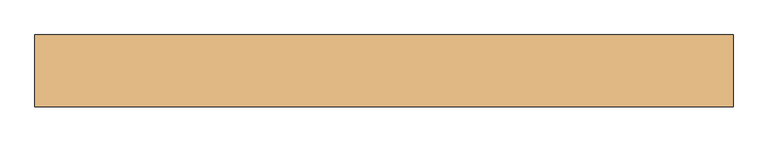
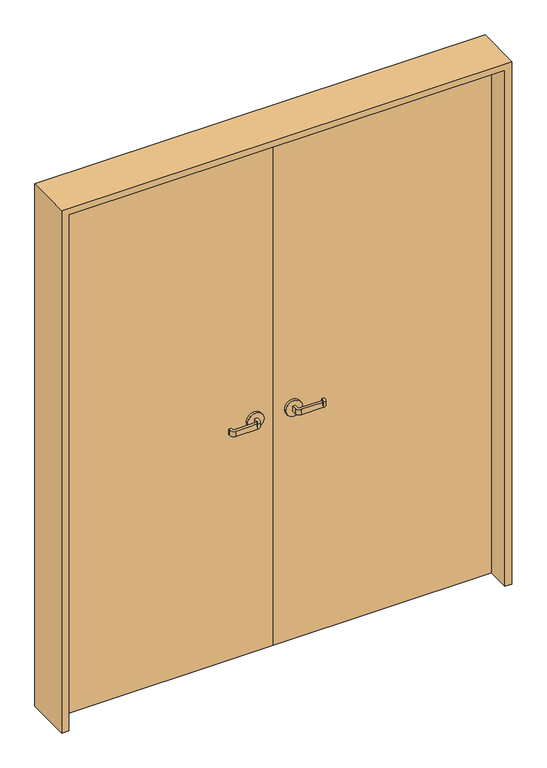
"""IFC4 building model written with IfcOpenShell, lengths in millimetres: door geometry, 両開き戸 : 両開き：w1600h2000."""

import ifcopenshell
import ifcopenshell.guid

model = None  # the IFC model being written
_history = None  # IfcOwnerHistory: only IFC2X3 demands one
_inside = {}  # id of a spatial element -> (the spatial element, [elements in it])
_under = {}  # id of a project, library or spatial element -> (it, [spatial elements below it])
_declared = {}  # id of a project -> (the project, [libraries it declares])
_typed = {}  # id of a type object -> (the type object, [elements of that type])
_made_of = {}  # id of a material, layer set ... -> (it, [elements and type objects made of it])


def new_model(schema):
    """Start an empty IFC model of exactly this schema.

    Asked for "IFC4X3", IfcOpenShell would pick the latest addendum, in which some entities
    have other attributes; the version numbers below select the first issue.
    IFC2X3 requires an IfcOwnerHistory on every rooted entity: one is made here for all.
    """
    global model, _history
    if schema == "IFC4X3":
        model = ifcopenshell.file(schema_version=(4, 3, 0, 0))
    else:
        model = ifcopenshell.file(schema=schema)
    _inside.clear()
    _under.clear()
    _declared.clear()
    _typed.clear()
    _made_of.clear()
    _history = None
    if model.schema == "IFC2X3":
        org = make("IfcOrganization", Name="unknown")
        user = make(
            "IfcPersonAndOrganization",
            ThePerson=make("IfcPerson", FamilyName="unknown"),
            TheOrganization=org,
        )
        app = make(
            "IfcApplication",
            ApplicationDeveloper=org,
            Version="unknown",
            ApplicationFullName="unknown",
            ApplicationIdentifier="unknown",
        )
        _history = make(
            "IfcOwnerHistory",
            OwningUser=user,
            OwningApplication=app,
            ChangeAction="ADDED",
            CreationDate=0,
        )
    return model


def make(cls, **values):
    """One entity of the class cls with the attributes given. An attribute that is None is left unset."""
    return model.create_entity(
        cls, **{name: value for name, value in values.items() if value is not None}
    )


def rooted(cls, **values):
    """An entity with a GlobalId (a new one), such as an element, a storey or a relation."""
    return make(cls, GlobalId=ifcopenshell.guid.new(), OwnerHistory=_history, **values)


def si_unit(unit_type, name, prefix=None):
    """IfcSIUnit, for example si_unit("LENGTHUNIT", "METRE", prefix="MILLI")."""
    return make("IfcSIUnit", UnitType=unit_type, Prefix=prefix, Name=name)


def assignment(units):
    """IfcUnitAssignment: the units of a project."""
    return None if units is None else make("IfcUnitAssignment", Units=units)


def point(xyz):
    """IfcCartesianPoint."""
    return None if xyz is None else make("IfcCartesianPoint", Coordinates=xyz)


def direction(xyz):
    """IfcDirection."""
    return None if xyz is None else make("IfcDirection", DirectionRatios=xyz)


def frame(location, z_axis=None, x_axis=None):
    """IfcAxis2Placement3D, a coordinate frame: its origin and axes. An axis left out is left unset."""
    return make(
        "IfcAxis2Placement3D",
        Location=point(location),
        Axis=direction(z_axis),
        RefDirection=direction(x_axis),
    )


def frame_2d(location, x_axis=None):
    """IfcAxis2Placement2D, a coordinate frame in the plane: its origin and x axis."""
    return make(
        "IfcAxis2Placement2D", Location=point(location), RefDirection=direction(x_axis)
    )


def origin():
    """The frame at (0, 0, 0) with its axes left unset."""
    return frame((0.0, 0.0, 0.0))


def origin_with_axes():
    """The frame at (0, 0, 0) with the z axis (0, 0, 1) and the x axis (1, 0, 0) written out."""
    return frame((0.0, 0.0, 0.0), z_axis=(0.0, 0.0, 1.0), x_axis=(1.0, 0.0, 0.0))


def place(relative_to, where):
    """IfcLocalPlacement: puts the frame where relative to a parent placement (None: the world)."""
    return make(
        "IfcLocalPlacement", PlacementRelTo=relative_to, RelativePlacement=where
    )


def context(
    kind, dimensions, precision=None, world=None, true_north=None, identifier=None
):
    """IfcGeometricRepresentationContext, for example the 3D "Model" context."""
    return make(
        "IfcGeometricRepresentationContext",
        ContextIdentifier=identifier,
        ContextType=kind,
        CoordinateSpaceDimension=dimensions,
        Precision=precision,
        WorldCoordinateSystem=world,
        TrueNorth=true_north,
    )


def project(units=None, contexts=None):
    """IfcProject with its units and contexts."""
    return rooted(
        "IfcProject",
        Name="project",
        RepresentationContexts=contexts,
        UnitsInContext=assignment(units),
    )


def spatial(cls, under=None, at=None, **own):
    """A site, building, storey or space (cls), placed at a placement, below another one or the project."""
    s = rooted(cls, ObjectPlacement=at, **own)
    if under is not None:
        _under.setdefault(under.id(), (under, []))[1].append(s)
    return s


def polyline(points):
    """IfcPolyline through the points."""
    return make("IfcPolyline", Points=[point(p) for p in points])


def circle_curve(where, radius):
    """IfcCircle in the frame where."""
    return make("IfcCircle", Position=where, Radius=radius)


def trimmed(basis, trim1, trim2, sense, master):
    """IfcTrimmedCurve: the piece of a basis curve between two trims."""
    return make(
        "IfcTrimmedCurve",
        BasisCurve=basis,
        Trim1=trim1,
        Trim2=trim2,
        SenseAgreement=sense,
        MasterRepresentation=master,
    )


def segment(curve, same_sense, transition):
    """IfcCompositeCurveSegment."""
    return make(
        "IfcCompositeCurveSegment",
        Transition=transition,
        SameSense=same_sense,
        ParentCurve=curve,
    )


def composite_curve(segments, self_intersect=None):
    """IfcCompositeCurve: segments joined end to end."""
    return make("IfcCompositeCurve", Segments=segments, SelfIntersect=self_intersect)


def outline(outer, holes=None, kind="AREA"):
    """IfcArbitraryClosedProfileDef: a profile drawn as a closed curve; with holes, ...WithVoids."""
    if holes is None:
        return make("IfcArbitraryClosedProfileDef", ProfileType=kind, OuterCurve=outer)
    return make(
        "IfcArbitraryProfileDefWithVoids",
        ProfileType=kind,
        OuterCurve=outer,
        InnerCurves=holes,
    )


def extrude(swept, where, along, depth):
    """IfcExtrudedAreaSolid: the profile swept, set in the frame where, extruded along a direction by depth."""
    return make(
        "IfcExtrudedAreaSolid",
        SweptArea=swept,
        Position=where,
        ExtrudedDirection=direction(along),
        Depth=depth,
    )


def shape(context_of_items, identifier, shape_type, items):
    """IfcShapeRepresentation: the items that make up one representation, for example the "Body"."""
    return make(
        "IfcShapeRepresentation",
        ContextOfItems=context_of_items,
        RepresentationIdentifier=identifier,
        RepresentationType=shape_type,
        Items=items,
    )


def source(mapping_origin, context_of_items, identifier, shape_type, items):
    """IfcRepresentationMap: a shape defined once, which mapped items show again and again."""
    return make(
        "IfcRepresentationMap",
        MappingOrigin=mapping_origin,
        MappedRepresentation=shape(context_of_items, identifier, shape_type, items),
    )


def transform(
    local_origin,
    x_axis=None,
    y_axis=None,
    z_axis=None,
    scale=None,
    scale2=None,
    scale3=None,
    uniform=True,
):
    """IfcCartesianTransformationOperator3D, or its non-uniform kind. x_axis, y_axis, z_axis: its Axis1, 2, 3."""
    if uniform:
        return make(
            "IfcCartesianTransformationOperator3D",
            Axis1=direction(x_axis),
            Axis2=direction(y_axis),
            LocalOrigin=point(local_origin),
            Scale=scale,
            Axis3=direction(z_axis),
        )
    return make(
        "IfcCartesianTransformationOperator3DnonUniform",
        Axis1=direction(x_axis),
        Axis2=direction(y_axis),
        LocalOrigin=point(local_origin),
        Scale=scale,
        Axis3=direction(z_axis),
        Scale2=scale2,
        Scale3=scale3,
    )


def mapped(mapping_source, mapping_target):
    """IfcMappedItem: shows the shape of a source again, moved by a transform."""
    return make(
        "IfcMappedItem", MappingSource=mapping_source, MappingTarget=mapping_target
    )


def made_of(thing, what):
    """Note that an element or type object is made of a material, layer set ...; save() writes the relation."""
    if what is not None:
        _made_of.setdefault(what.id(), (what, []))[1].append(thing)
    return thing


def element(
    cls,
    number,
    at=None,
    inside=None,
    cuts=None,
    type_object=None,
    material=None,
    context=None,
    identifier="Body",
    shape_type=None,
    held_by="IfcProductDefinitionShape",
    body=None,
    shapes=None,
    **own,
):
    """One element of the class cls, such as IfcWall. Its Tag is "e" and its number.

    at: its placement. inside: the storey or other place that contains it. cuts: it is an
    opening in that element (IfcRelVoidsElement). A single representation is given by context,
    identifier, shape_type and body (its items); several are given by shapes. held_by: the class
    of the entity that holds the representations. save() writes the other relations.
    """
    e = rooted(cls, Tag="e%d" % number, ObjectPlacement=at, **own)
    if body is not None:
        shapes = [shape(context, identifier, shape_type, body)]
    if shapes is not None:
        e.Representation = make(held_by, Representations=shapes)
    if inside is not None:
        _inside.setdefault(inside.id(), (inside, []))[1].append(e)
    if cuts is not None:
        rooted(
            "IfcRelVoidsElement", RelatingBuildingElement=cuts, RelatedOpeningElement=e
        )
    if type_object is not None:
        _typed.setdefault(type_object.id(), (type_object, []))[1].append(e)
    return made_of(e, material)


def aggregate(whole, parts):
    """IfcRelAggregates: a whole, such as a stair, and the parts it consists of."""
    return rooted("IfcRelAggregates", RelatingObject=whole, RelatedObjects=parts)


def save(model, path):
    """Write the relations noted so far, then the file.

    IfcRelAggregates (storeys below a building ...), IfcRelContainedInSpatialStructure (elements
    in a storey), IfcRelDefinesByType, IfcRelAssociatesMaterial and IfcRelDeclares: one each for
    every whole, place, type object, material and project.
    """
    for whole, parts in _under.values():
        aggregate(whole, parts)
    for where, things in _inside.values():
        rooted(
            "IfcRelContainedInSpatialStructure",
            RelatedElements=things,
            RelatingStructure=where,
        )
    for kind, things in _typed.values():
        rooted("IfcRelDefinesByType", RelatedObjects=things, RelatingType=kind)
    for what, things in _made_of.values():
        rooted("IfcRelAssociatesMaterial", RelatedObjects=things, RelatingMaterial=what)
    for by, libraries in _declared.values():
        rooted("IfcRelDeclares", RelatingContext=by, RelatedDefinitions=libraries)
    model.write(path)


def door_298ce04c(model_context):
    return source(origin(), model_context, "Body", "SweptSolid", [
        extrude(outline(polyline([(791.5283918, 40.0), (791.5283918, 0.0), (-8.4716082, 0.0), (-8.4716082, 40.0), (791.5283918, 40.0)])), origin_with_axes(), (0.0, 0.0, 1.0), 2000.0),
        extrude(outline(polyline([(-8.4716082, 40.0), (-8.4716082, 0.0), (-808.4716082, 0.0), (-808.4716082, 40.0), (-8.4716082, 40.0)])), origin_with_axes(), (0.0, 0.0, 1.0), 2000.0),
        extrude(outline(composite_curve([segment(polyline([(-83.4716082, 50.0), (-83.4716082, 65.0)]), True, "CONTINUOUS"), segment(trimmed(circle_curve(frame_2d((-88.4716082, 65.0)), 5.0), [point((-83.4716082, 65.0))], [point((-88.4716082, 70.0))], True, "CARTESIAN"), True, "CONTINUOUS"), segment(polyline([(-88.4716082, 70.0), (-168.4716082, 70.0)]), True, "CONTINUOUS"), segment(trimmed(circle_curve(frame_2d((-168.4716082, 65.0)), 5.0), [point((-168.4716082, 70.0))], [point((-173.4716082, 65.0))], True, "CARTESIAN"), True, "CONTINUOUS"), segment(polyline([(-173.4716082, 65.0), (-173.4716082, 60.0), (-183.4716082, 60.0), (-183.4716082, 65.0)]), True, "CONTINUOUS"), segment(trimmed(circle_curve(frame_2d((-168.4716082, 65.0)), 15.0), [point((-183.4716082, 65.0))], [point((-168.4716082, 80.0))], False, "CARTESIAN"), True, "CONTINUOUS"), segment(polyline([(-168.4716082, 80.0), (-88.4716082, 80.0)]), True, "CONTINUOUS"), segment(trimmed(circle_curve(frame_2d((-88.4716082, 65.0)), 15.0), [point((-88.4716082, 80.0))], [point((-73.4716082, 65.0))], False, "CARTESIAN"), True, "CONTINUOUS"), segment(polyline([(-73.4716082, 65.0), (-73.4716082, 50.0), (-83.4716082, 50.0)]), True, "CONTINUOUS")], self_intersect=False)), frame((0.0, 0.0, 890.0), z_axis=(0.0, 0.0, 1.0), x_axis=(1.0, 0.0, 0.0)), (0.0, 0.0, 1.0), 20.0),
        extrude(outline(composite_curve([segment(trimmed(circle_curve(frame_2d((900.0, -78.4716082)), 30.0), [point((900.0, -48.4716082))], [point((900.0, -108.4716082))], False, "CARTESIAN"), True, "CONTINUOUS"), segment(trimmed(circle_curve(frame_2d((900.0, -78.4716082)), 30.0), [point((900.0, -108.4716082))], [point((900.0, -48.4716082))], False, "CARTESIAN"), True, "CONTINUOUS")], self_intersect=False)), frame((0.0, 40.0, 0.0), z_axis=(0.0, 1.0, 0.0), x_axis=(0.0, 0.0, 1.0)), (0.0, 0.0, 1.0), 10.0),
        extrude(outline(composite_curve([segment(polyline([(-73.4716082, -10.0), (-73.4716082, -25.0)]), True, "CONTINUOUS"), segment(trimmed(circle_curve(frame_2d((-88.4716082, -25.0)), 15.0), [point((-73.4716082, -25.0))], [point((-88.4716082, -40.0))], False, "CARTESIAN"), True, "CONTINUOUS"), segment(polyline([(-88.4716082, -40.0), (-168.4716082, -40.0)]), True, "CONTINUOUS"), segment(trimmed(circle_curve(frame_2d((-168.4716082, -25.0)), 15.0), [point((-168.4716082, -40.0))], [point((-183.4716082, -25.0))], False, "CARTESIAN"), True, "CONTINUOUS"), segment(polyline([(-183.4716082, -25.0), (-183.4716082, -20.0), (-173.4716082, -20.0), (-173.4716082, -25.0)]), True, "CONTINUOUS"), segment(trimmed(circle_curve(frame_2d((-168.4716082, -25.0)), 5.0), [point((-173.4716082, -25.0))], [point((-168.4716082, -30.0))], True, "CARTESIAN"), True, "CONTINUOUS"), segment(polyline([(-168.4716082, -30.0), (-88.4716082, -30.0)]), True, "CONTINUOUS"), segment(trimmed(circle_curve(frame_2d((-88.4716082, -25.0)), 5.0), [point((-88.4716082, -30.0))], [point((-83.4716082, -25.0))], True, "CARTESIAN"), True, "CONTINUOUS"), segment(polyline([(-83.4716082, -25.0), (-83.4716082, -10.0), (-73.4716082, -10.0)]), True, "CONTINUOUS")], self_intersect=False)), frame((0.0, 0.0, 890.0), z_axis=(0.0, 0.0, 1.0), x_axis=(1.0, 0.0, 0.0)), (0.0, 0.0, 1.0), 20.0),
        extrude(outline(composite_curve([segment(trimmed(circle_curve(frame_2d((900.0, -78.4716082)), 30.0), [point((900.0, -48.4716082))], [point((900.0, -108.4716082))], False, "CARTESIAN"), True, "CONTINUOUS"), segment(trimmed(circle_curve(frame_2d((900.0, -78.4716082)), 30.0), [point((900.0, -108.4716082))], [point((900.0, -48.4716082))], False, "CARTESIAN"), True, "CONTINUOUS")], self_intersect=False)), frame((0.0, -10.0, 0.0), z_axis=(0.0, 1.0, 0.0), x_axis=(0.0, 0.0, 1.0)), (0.0, 0.0, 1.0), 10.0),
        extrude(outline(composite_curve([segment(polyline([(66.5283918, 50.0), (56.5283918, 50.0), (56.5283918, 65.0)]), True, "CONTINUOUS"), segment(trimmed(circle_curve(frame_2d((71.5283918, 65.0)), 15.0), [point((56.5283918, 65.0))], [point((71.5283918, 80.0))], False, "CARTESIAN"), True, "CONTINUOUS"), segment(polyline([(71.5283918, 80.0), (151.5283918, 80.0)]), True, "CONTINUOUS"), segment(trimmed(circle_curve(frame_2d((151.5283918, 65.0)), 15.0), [point((151.5283918, 80.0))], [point((166.5283918, 65.0))], False, "CARTESIAN"), True, "CONTINUOUS"), segment(polyline([(166.5283918, 65.0), (166.5283918, 60.0), (156.5283918, 60.0), (156.5283918, 65.0)]), True, "CONTINUOUS"), segment(trimmed(circle_curve(frame_2d((151.5283918, 65.0)), 5.0), [point((156.5283918, 65.0))], [point((151.5283918, 70.0))], True, "CARTESIAN"), True, "CONTINUOUS"), segment(polyline([(151.5283918, 70.0), (71.5283918, 70.0)]), True, "CONTINUOUS"), segment(trimmed(circle_curve(frame_2d((71.5283918, 65.0)), 5.0), [point((71.5283918, 70.0))], [point((66.5283918, 65.0))], True, "CARTESIAN"), True, "CONTINUOUS"), segment(polyline([(66.5283918, 65.0), (66.5283918, 50.0)]), True, "CONTINUOUS")], self_intersect=False)), frame((0.0, 0.0, 890.0), z_axis=(0.0, 0.0, 1.0), x_axis=(1.0, 0.0, 0.0)), (0.0, 0.0, 1.0), 20.0),
        extrude(outline(composite_curve([segment(trimmed(circle_curve(frame_2d((900.0, 61.5283918)), 30.0), [point((900.0, 31.5283918))], [point((900.0, 91.5283918))], False, "CARTESIAN"), True, "CONTINUOUS"), segment(trimmed(circle_curve(frame_2d((900.0, 61.5283918)), 30.0), [point((900.0, 91.5283918))], [point((900.0, 31.5283918))], False, "CARTESIAN"), True, "CONTINUOUS")], self_intersect=False)), frame((0.0, 40.0, 0.0), z_axis=(0.0, 1.0, 0.0), x_axis=(0.0, 0.0, 1.0)), (0.0, 0.0, 1.0), 10.0),
        extrude(outline(composite_curve([segment(polyline([(56.5283918, -10.0), (66.5283918, -10.0), (66.5283918, -25.0)]), True, "CONTINUOUS"), segment(trimmed(circle_curve(frame_2d((71.5283918, -25.0)), 5.0), [point((66.5283918, -25.0))], [point((71.5283918, -30.0))], True, "CARTESIAN"), True, "CONTINUOUS"), segment(polyline([(71.5283918, -30.0), (151.5283918, -30.0)]), True, "CONTINUOUS"), segment(trimmed(circle_curve(frame_2d((151.5283918, -25.0)), 5.0), [point((151.5283918, -30.0))], [point((156.5283918, -25.0))], True, "CARTESIAN"), True, "CONTINUOUS"), segment(polyline([(156.5283918, -25.0), (156.5283918, -20.0), (166.5283918, -20.0), (166.5283918, -25.0)]), True, "CONTINUOUS"), segment(trimmed(circle_curve(frame_2d((151.5283918, -25.0)), 15.0), [point((166.5283918, -25.0))], [point((151.5283918, -40.0))], False, "CARTESIAN"), True, "CONTINUOUS"), segment(polyline([(151.5283918, -40.0), (71.5283918, -40.0)]), True, "CONTINUOUS"), segment(trimmed(circle_curve(frame_2d((71.5283918, -25.0)), 15.0), [point((71.5283918, -40.0))], [point((56.5283918, -25.0))], False, "CARTESIAN"), True, "CONTINUOUS"), segment(polyline([(56.5283918, -25.0), (56.5283918, -10.0)]), True, "CONTINUOUS")], self_intersect=False)), frame((0.0, 0.0, 890.0), z_axis=(0.0, 0.0, 1.0), x_axis=(1.0, 0.0, 0.0)), (0.0, 0.0, 1.0), 20.0),
        extrude(outline(composite_curve([segment(trimmed(circle_curve(frame_2d((900.0, 61.5283918)), 30.0), [point((900.0, 31.5283918))], [point((900.0, 91.5283918))], False, "CARTESIAN"), True, "CONTINUOUS"), segment(trimmed(circle_curve(frame_2d((900.0, 61.5283918)), 30.0), [point((900.0, 91.5283918))], [point((900.0, 31.5283918))], False, "CARTESIAN"), True, "CONTINUOUS")], self_intersect=False)), frame((0.0, -10.0, 0.0), z_axis=(0.0, 1.0, 0.0), x_axis=(0.0, 0.0, 1.0)), (0.0, 0.0, 1.0), 10.0),
        extrude(outline(polyline([(0.0, -833.4716082), (0.0, -808.4716082), (2000.0, -808.4716082), (2000.0, 791.5283918), (0.0, 791.5283918), (0.0, 816.5283918), (2025.0, 816.5283918), (2025.0, -833.4716082), (0.0, -833.4716082)])), frame((0.0, -85.0, 0.0), z_axis=(0.0, 1.0, 0.0), x_axis=(0.0, 0.0, 1.0)), (0.0, 0.0, 1.0), 170.0),
    ])


if __name__ == "__main__":
    model = new_model("IFC4")
    model_context = context("Model", 3, world=origin())
    ifc_project = project(units=[si_unit("LENGTHUNIT", "METRE", prefix="MILLI")], contexts=[model_context])
    site = spatial("IfcSite", under=ifc_project)
    building = spatial("IfcBuilding", under=site)
    placement = place(None, origin())
    door_shape = door_298ce04c(model_context)
    element("IfcDoor", 1, ObjectType="両開き戸 : 両開き：w1600h2000", at=placement, inside=building, context=model_context, shape_type="MappedRepresentation", body=[
        mapped(door_shape, transform((0.0, 0.0, 0.0), x_axis=(1.0, 0.0, 0.0), y_axis=(0.0, 1.0, 0.0), z_axis=(0.0, 0.0, 1.0))),
    ])
    save(model, "model.ifc")
